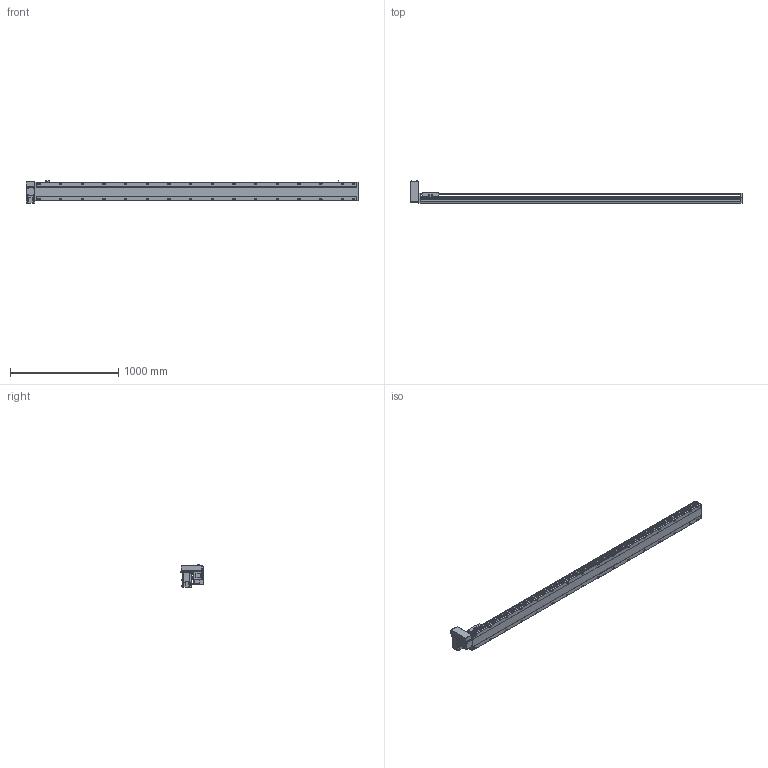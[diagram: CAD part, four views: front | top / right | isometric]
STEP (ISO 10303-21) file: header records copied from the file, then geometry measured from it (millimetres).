
FILE_DESCRIPTION( ( 'STEP AP214' ), '1' );
FILE_NAME( 'x:/temp/worker_5/temp/exporttempdir_3988_146_x1QO5/format_0/PBS170-P40-S2700-RU-T75-C1-N(0).stp', '2022-06-08T06:01:02', ( 'License CC BY-ND 4.0' ), ( 'CADENAS' ), ' ', 'PARTsolutions', ' ' );
FILE_SCHEMA( ( 'AUTOMOTIVE_DESIGN { 1 0 10303 214 1 1 1 1 }' ) );
Length unit declared in the file: millimetre
Products named in the file (7): PBS170-P40-S2700-RU-T75-C1-N(0); _PBS170-S2700()_body; _PBS170T-RU_motors; _T75-p1; _PBS170_sliser; _PBS170_plant; _PBS170_sensor
Assembly tree (8 placements, depth 2):
  PBS170-P40-S2700-RU-T75-C1-N(0)
    _PBS170-S2700()_body
    _PBS170T-RU_motors
    _T75-p1
    _PBS170_sliser
    _PBS170_plant
    _PBS170_sensor  x3
Bounding box: 3063 x 206 x 205.3 mm (x, y, z)
Volume: 23102353.1 mm3; surface area: 2902026.5 mm2
Topology: 8 solids, 8 shells, 1210 faces, 3195 edges, 2082 vertices
Faces by surface type: plane 735, cylinder 403, cone 62, sphere 8, torus 2
Full cylindrical faces by diameter (mm): 3.242 x4, 4 x2, 4.4 x4, 4.5 x6, 4.917 x4, 6 x9, 6.647 x40, 7 x2, 7.5 x4, 8 x8, 8.5 x32, 10 x4, 10.5 x32, 11 x2, 30 x2, 40 x1, 70 x1
Entity records: 44876 total; most frequent: CARTESIAN_POINT 7565, DIRECTION 5860, ORIENTED_EDGE 5508, EDGE_CURVE 2754, AXIS2_PLACEMENT_3D 2077, VERTEX_POINT 1922, LINE 1706, VECTOR 1706
